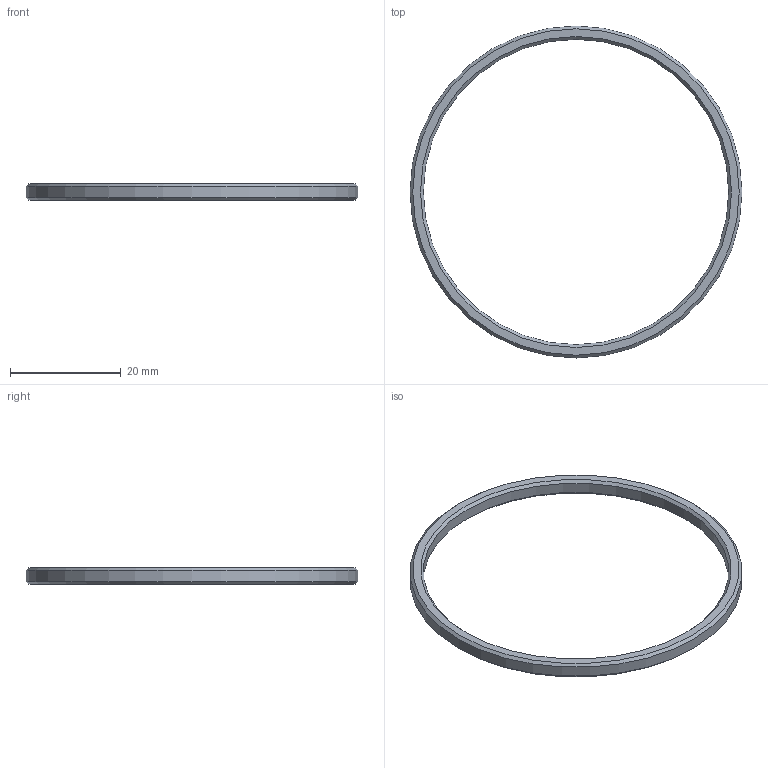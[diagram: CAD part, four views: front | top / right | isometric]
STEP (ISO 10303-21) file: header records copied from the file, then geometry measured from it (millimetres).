
FILE_DESCRIPTION(/* description */ ('Alibre Inc.'),/* implementation_level */ '2;1');
FILE_NAME(/* name */ 'export-38F32466-760C-4320-A42F-F3D211876E8C',/* time_stamp */ '2026-01-19T12:38:15+00:00',/* author */ (''),/* organization */ (''),/* preprocessor_version */ 'ST-DEVELOPER v17',/* originating_system */ 'Alibre',/* authorisation */ '');
FILE_SCHEMA (('CONFIG_CONTROL_DESIGN'));
Length unit declared in the file: millimetre
Bounding box: 60 x 60 x 3 mm (x, y, z)
Volume: 1212.4 mm3; surface area: 1742.3 mm2
Topology: 1 solids, 1 shells, 8 faces, 14 edges, 8 vertices
Faces by surface type: cone 4, plane 2, cylinder 2
Full cylindrical faces by diameter (mm): 55.2 x1, 60 x1
Entity records: 251 total; most frequent: DIRECTION 30, CARTESIAN_POINT 24, ORIENTED_EDGE 16, EDGE_LOOP 16, FACE_BOUND 16, AXIS2_PLACEMENT_3D 16, ORGANIZATION 8, PERSON 8
